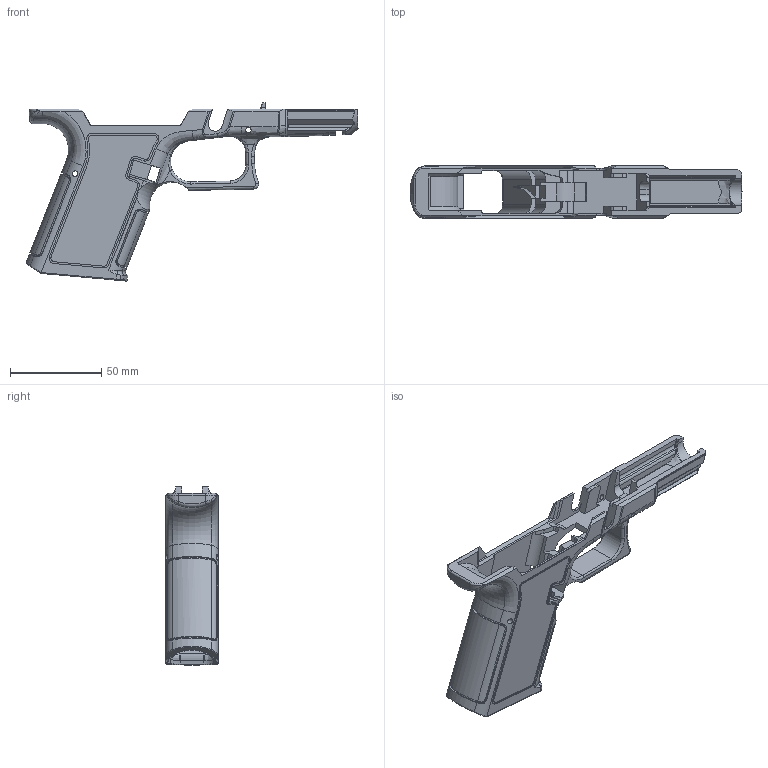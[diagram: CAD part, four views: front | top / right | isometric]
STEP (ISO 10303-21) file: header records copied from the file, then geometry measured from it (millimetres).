
FILE_DESCRIPTION(/* description */ (''),/* implementation_level */ '2;1');
FILE_NAME(/* name */ '120G Compact - MOD1 Blank_.step',/* time_stamp */ '2024-06-03T21:03:17-05:00',/* author */ (''),/* organization */ (''),/* preprocessor_version */ 'ST-DEVELOPER v20',/* originating_system */ 'Autodesk Translation Framework v13.14.0.145',/* authorisation */ '');
FILE_SCHEMA (('AUTOMOTIVE_DESIGN { 1 0 10303 214 3 1 1 }'));
Products named in the file (2): 120G Compact - MOD1 Blank; X9-C MOD1 (G19)
Assembly tree (2 placements, depth 2):
  120G Compact - MOD1 Blank
    X9-C MOD1 (G19)  x2
Bounding box: 181.79 x 28.8 x 97.54 mm (x, y, z)
Volume: 136482.3 mm3; surface area: 79622 mm2
Topology: 2 solids, 2 shells, 1364 faces, 3966 edges, 2566 vertices
Faces by surface type: bspline 540, plane 414, cylinder 330, torus 52, cone 22, sphere 6
Full cylindrical faces by diameter (mm): 1.321 x2, 3 x8
Entity records: 45894 total; most frequent: CARTESIAN_POINT 29525, ORIENTED_EDGE 3938, DIRECTION 2742, EDGE_CURVE 1969, VERTEX_POINT 1283, AXIS2_PLACEMENT_3D 977, LINE 788, VECTOR 788
